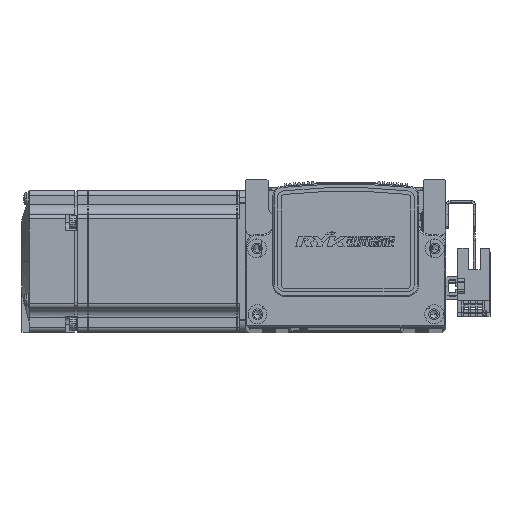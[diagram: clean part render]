
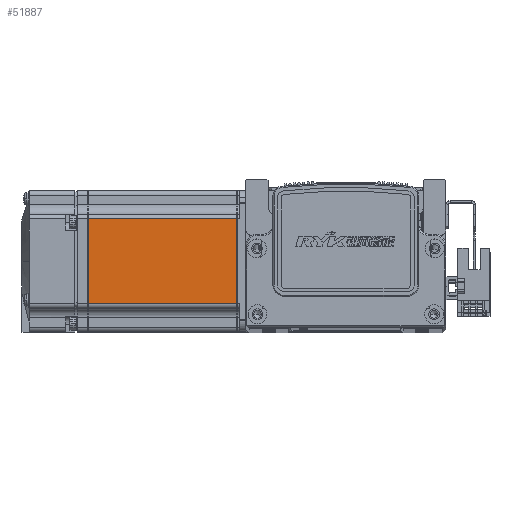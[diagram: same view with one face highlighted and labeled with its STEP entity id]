
A CAD part, top view. The second image highlights one B-rep face of the part: STEP entity #51887.
In plain terms, the highlighted planar face has unit normal (0, 0, 1) as drawn and (0, 0, -1) by its records, which use the part's own axes.
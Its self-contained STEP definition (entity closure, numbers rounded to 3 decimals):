
#2414 = VERTEX_POINT ( 'NONE', #67237 ) ;
#2468 = VERTEX_POINT ( 'NONE', #67383 ) ;
#2507 = VERTEX_POINT ( 'NONE', #67460 ) ;
#2518 = VERTEX_POINT ( 'NONE', #67508 ) ;
#14183 = DIRECTION ( 'NONE',  ( -1., 0., 0. ) ) ;
#14186 = CARTESIAN_POINT ( 'NONE',  ( -6.5, 18., -30. ) ) ;
#14188 = CARTESIAN_POINT ( 'NONE',  ( -6.5, -18., -30. ) ) ;
#14189 = DIRECTION ( 'NONE',  ( 1., 0., 0. ) ) ;
#14234 = CARTESIAN_POINT ( 'NONE',  ( -70.95, 25., -30. ) ) ;
#14237 = DIRECTION ( 'NONE',  ( 0., 1., 0. ) ) ;
#14320 = DIRECTION ( 'NONE',  ( 0., -1., 0. ) ) ;
#14347 = CARTESIAN_POINT ( 'NONE',  ( -7.75, 25., -30. ) ) ;
#39561 = EDGE_LOOP ( 'NONE', ( #39922, #39990, #39984, #40001 ) ) ;
#39922 = ORIENTED_EDGE ( 'NONE', *, *, #74489, .T. ) ;
#39984 = ORIENTED_EDGE ( 'NONE', *, *, #74425, .T. ) ;
#39990 = ORIENTED_EDGE ( 'NONE', *, *, #74373, .T. ) ;
#40001 = ORIENTED_EDGE ( 'NONE', *, *, #74371, .T. ) ;
#48730 = LINE ( 'NONE', #14186, #48786 ) ;
#48742 = VECTOR ( 'NONE', #14183, 1000. ) ;
#48762 = VECTOR ( 'NONE', #14237, 1000. ) ;
#48778 = LINE ( 'NONE', #14188, #48742 ) ;
#48785 = LINE ( 'NONE', #14234, #48762 ) ;
#48786 = VECTOR ( 'NONE', #14189, 1000. ) ;
#48815 = VECTOR ( 'NONE', #14320, 1000. ) ;
#48826 = LINE ( 'NONE', #14347, #48815 ) ;
#51887 = ADVANCED_FACE ( 'NONE', ( #81569 ), #76530, .T. ) ;
#57296 = AXIS2_PLACEMENT_3D ( 'NONE', #76460, #76463, #76457 ) ;
#67237 = CARTESIAN_POINT ( 'NONE',  ( -7.75, -18., -30. ) ) ;
#67383 = CARTESIAN_POINT ( 'NONE',  ( -70.95, -18., -30. ) ) ;
#67460 = CARTESIAN_POINT ( 'NONE',  ( -70.95, 18., -30. ) ) ;
#67508 = CARTESIAN_POINT ( 'NONE',  ( -7.75, 18., -30. ) ) ;
#74371 = EDGE_CURVE ( 'NONE', #2507, #2518, #48730, .T. ) ;
#74373 = EDGE_CURVE ( 'NONE', #2414, #2468, #48778, .T. ) ;
#74425 = EDGE_CURVE ( 'NONE', #2468, #2507, #48785, .T. ) ;
#74489 = EDGE_CURVE ( 'NONE', #2518, #2414, #48826, .T. ) ;
#76457 = DIRECTION ( 'NONE',  ( -1., 0., 0. ) ) ;
#76460 = CARTESIAN_POINT ( 'NONE',  ( -6.5, 25., -30. ) ) ;
#76463 = DIRECTION ( 'NONE',  ( 0., 0., -1. ) ) ;
#76530 = PLANE ( 'NONE',  #57296 ) ;
#81569 = FACE_OUTER_BOUND ( 'NONE', #39561, .T. ) ;
